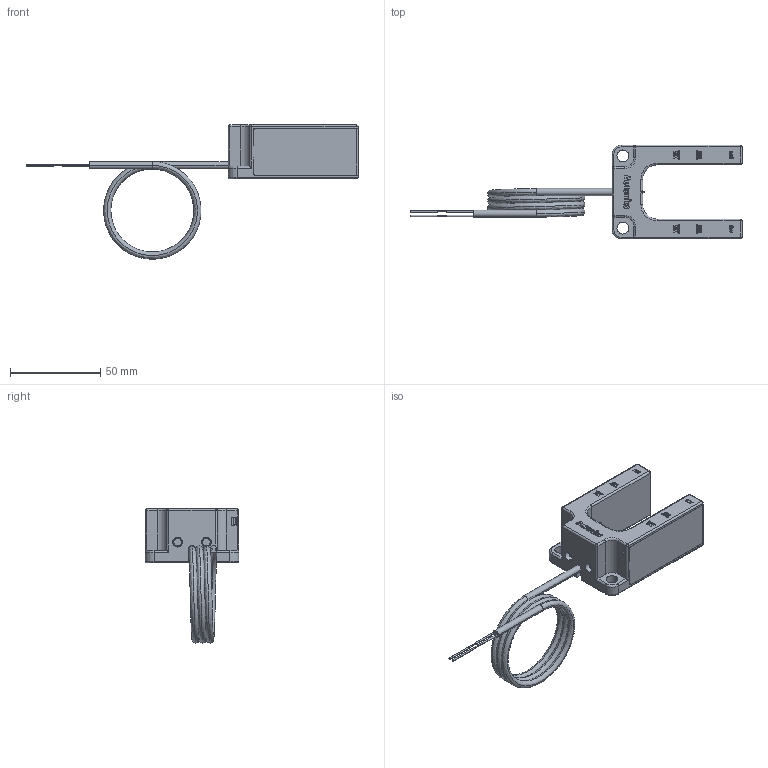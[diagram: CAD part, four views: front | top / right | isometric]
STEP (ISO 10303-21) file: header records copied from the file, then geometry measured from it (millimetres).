
FILE_DESCRIPTION (( 'STEP AP214' ), '1' );
FILE_NAME ('MU-1A-30_MU-1B-30.STEP', '2021-07-29T04:50:30', ( '' ), ( '' ), 'SwSTEP 2.0', 'SolidWorks 2018', '' );
FILE_SCHEMA (( 'AUTOMOTIVE_DESIGN' ));
Length unit declared in the file: millimetre
Products named in the file (1): MU-1A-30_MU-1B-30
Bounding box: 184 x 52 x 74.5 mm (x, y, z)
Volume: 61575.3 mm3; surface area: 23543.3 mm2
Topology: 1 solids, 5 shells, 809 faces, 2168 edges, 1398 vertices
Faces by surface type: plane 391, bspline 234, cylinder 106, cone 52, sphere 14, torus 12
Entity records: 35420 total; most frequent: CARTESIAN_POINT 12746, ORIENTED_EDGE 4300, DIRECTION 3036, EDGE_CURVE 2150, VERTEX_POINT 1398, LINE 1264, VECTOR 1264, AXIS2_PLACEMENT_3D 886
